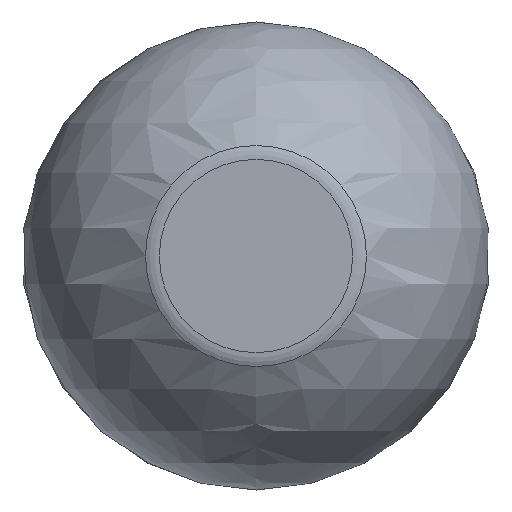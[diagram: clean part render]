
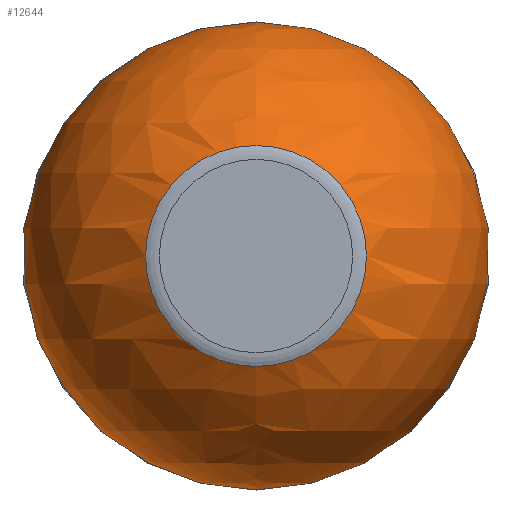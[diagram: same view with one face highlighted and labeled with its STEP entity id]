
A CAD part, left-side view. The second image highlights one B-rep face of the part: STEP entity #12644.
In plain terms, the highlighted spherical face has radius 6.09 mm.
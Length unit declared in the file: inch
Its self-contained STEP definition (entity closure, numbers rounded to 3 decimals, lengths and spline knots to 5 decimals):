
#3321=FACE_BOUND('',#4133,.T.);
#3398=SPHERICAL_SURFACE('',#13459,0.23975);
#3402=FACE_OUTER_BOUND('',#4132,.T.);
#4132=EDGE_LOOP('',(#8729,#8730,#8731,#8732,#8733,#8734));
#4133=EDGE_LOOP('',(#8735));
#4938=CIRCLE('',#13455,0.11325);
#4939=CIRCLE('',#13456,0.11325);
#4942=CIRCLE('',#13460,0.23975);
#4943=CIRCLE('',#13461,0.23975);
#4944=CIRCLE('',#13462,0.13232);
#5463=VERTEX_POINT('',#17825);
#5464=VERTEX_POINT('',#17826);
#5466=VERTEX_POINT('',#17833);
#5467=VERTEX_POINT('',#17835);
#5468=VERTEX_POINT('',#17837);
#6770=EDGE_CURVE('',#5463,#5464,#4938,.T.);
#6771=EDGE_CURVE('',#5464,#5463,#4939,.T.);
#6774=EDGE_CURVE('',#5466,#5463,#4942,.T.);
#6775=EDGE_CURVE('',#5464,#5467,#4943,.T.);
#6776=EDGE_CURVE('',#5468,#5468,#4944,.T.);
#8729=ORIENTED_EDGE('',*,*,#6770,.F.);
#8730=ORIENTED_EDGE('',*,*,#6774,.F.);
#8731=ORIENTED_EDGE('',*,*,#6774,.T.);
#8732=ORIENTED_EDGE('',*,*,#6771,.F.);
#8733=ORIENTED_EDGE('',*,*,#6775,.T.);
#8734=ORIENTED_EDGE('',*,*,#6775,.F.);
#8735=ORIENTED_EDGE('',*,*,#6776,.F.);
#12644=ADVANCED_FACE('',(#3402,#3321),#3398,.T.);
#13455=AXIS2_PLACEMENT_3D('',#17827,#14551,#14552);
#13456=AXIS2_PLACEMENT_3D('',#17828,#14553,#14554);
#13459=AXIS2_PLACEMENT_3D('',#17832,#14559,#14560);
#13460=AXIS2_PLACEMENT_3D('',#17834,#14561,#14562);
#13461=AXIS2_PLACEMENT_3D('',#17836,#14563,#14564);
#13462=AXIS2_PLACEMENT_3D('',#17838,#14565,#14566);
#14551=DIRECTION('center_axis',(-1.,0.,0.));
#14552=DIRECTION('ref_axis',(0.,-1.,0.));
#14553=DIRECTION('center_axis',(-1.,0.,0.));
#14554=DIRECTION('ref_axis',(0.,-1.,0.));
#14559=DIRECTION('center_axis',(0.,0.,1.));
#14560=DIRECTION('ref_axis',(1.,0.,0.));
#14561=DIRECTION('center_axis',(0.,-1.,0.));
#14562=DIRECTION('ref_axis',(-1.,0.,0.));
#14563=DIRECTION('center_axis',(0.,-1.,0.));
#14564=DIRECTION('ref_axis',(-1.,0.,0.));
#14565=DIRECTION('center_axis',(1.,0.,0.));
#14566=DIRECTION('ref_axis',(0.,0.,-1.));
#17825=CARTESIAN_POINT('',(-0.21132,0.,0.11325));
#17826=CARTESIAN_POINT('',(-0.21132,0.,-0.11325));
#17827=CARTESIAN_POINT('Origin',(-0.21132,0.,0.));
#17828=CARTESIAN_POINT('Origin',(-0.21132,0.,0.));
#17832=CARTESIAN_POINT('Origin',(0.,0.,0.));
#17833=CARTESIAN_POINT('',(0.,0.,0.23975));
#17834=CARTESIAN_POINT('Origin',(0.,0.,0.));
#17835=CARTESIAN_POINT('',(0.,0.,-0.23975));
#17836=CARTESIAN_POINT('Origin',(0.,0.,0.));
#17837=CARTESIAN_POINT('',(0.19993,0.13232,0.));
#17838=CARTESIAN_POINT('Origin',(0.19993,0.,0.));
